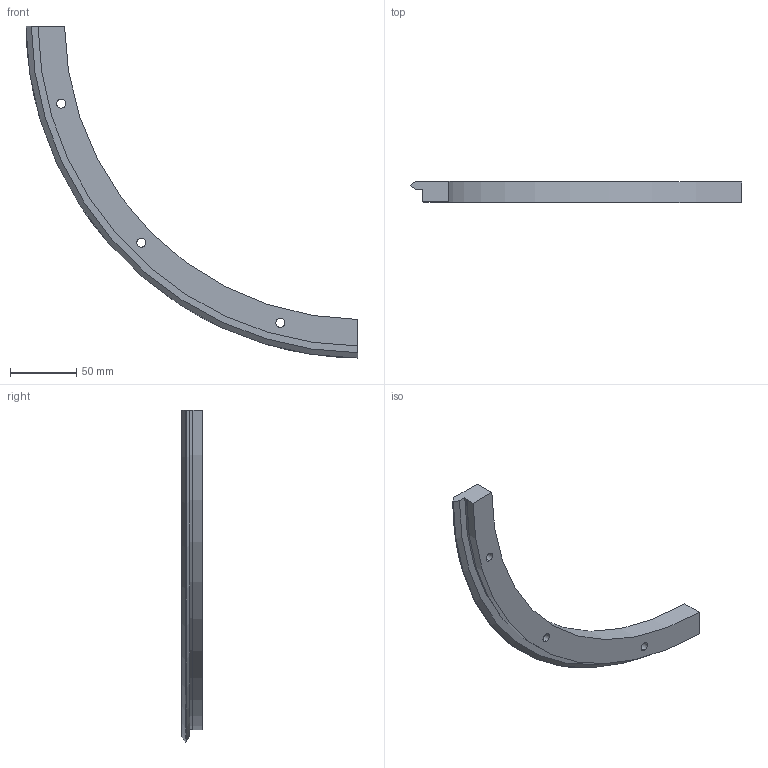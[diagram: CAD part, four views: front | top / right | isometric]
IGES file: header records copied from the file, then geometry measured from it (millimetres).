
Start section: 3D InterOp IGES (v. 2020 1.0.1), Spatial Corp. Copyright (c) 1999-2017.
Global section: file name: rem_505_r90.igs; native system: Spatial Corp.; preprocessor: 3D InterOp ACIS/IGES; author: TraceParts; organization: TraceParts S.A.; date: 20210201.084808; units: millimetre
Bounding box: 250.86 x 15.5 x 250.86 mm (x, y, z)
Surface area: 33539.7 mm2 (no closed solid volume)
Topology: 0 solids, 0 shells, 28 faces, 138 edges, 138 vertices
Faces by surface type: revolution 19, extrusion 9
